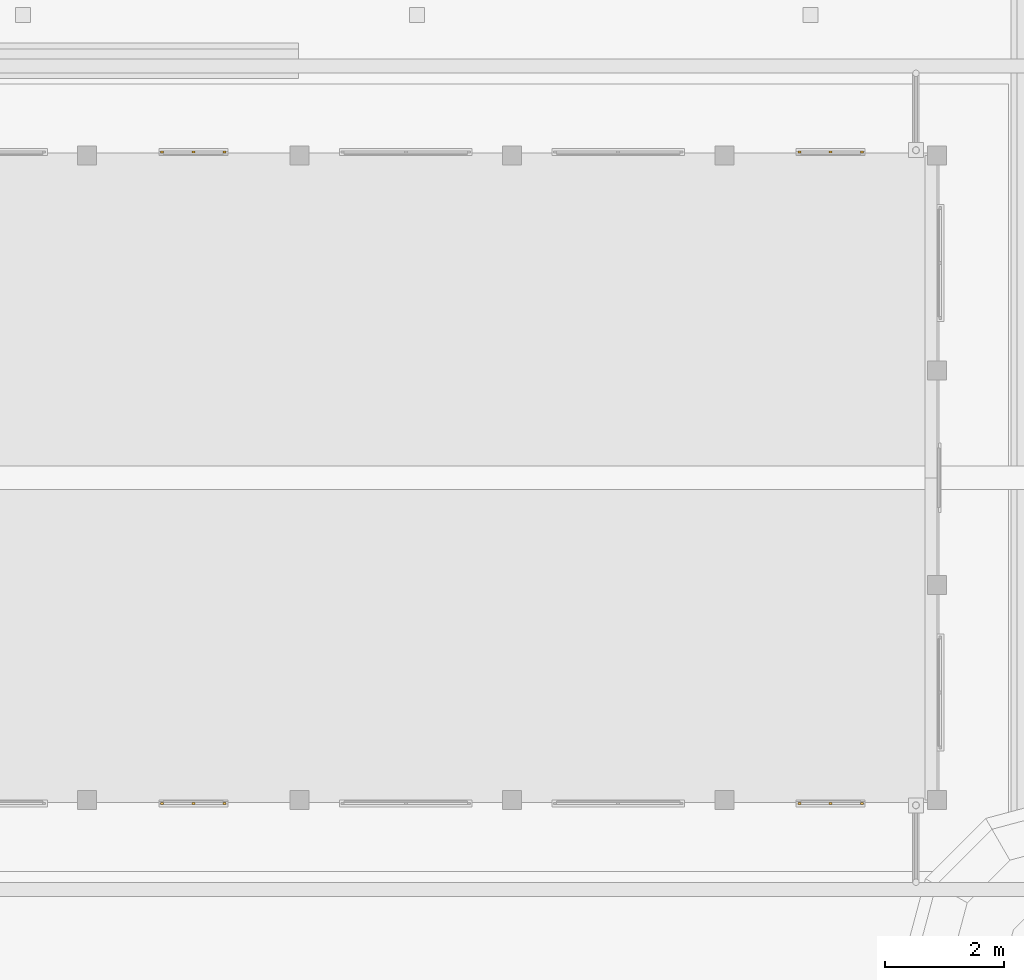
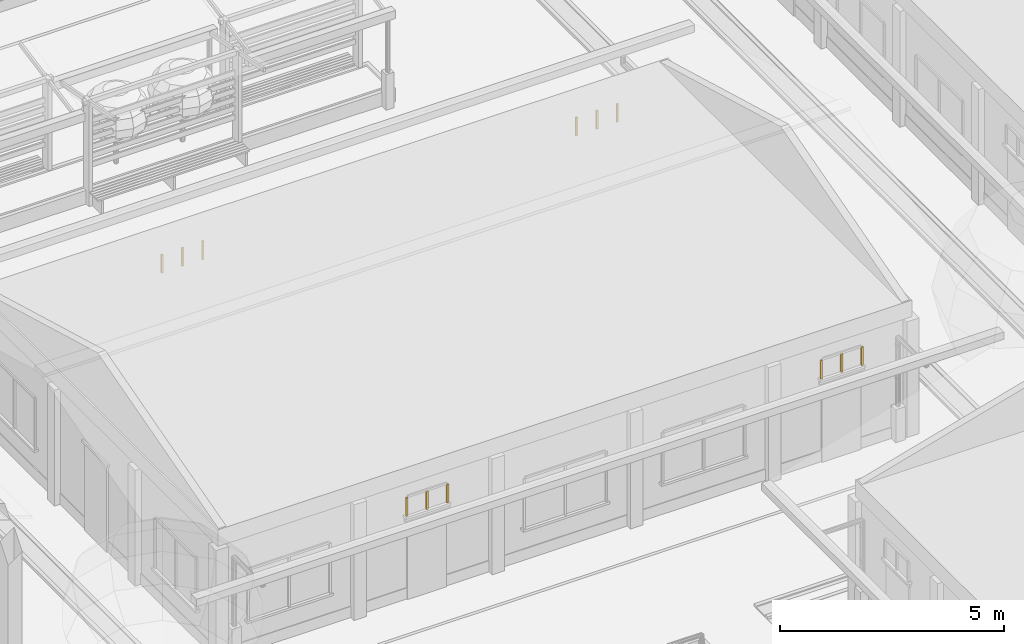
# One storey, part 87 of 177: 12 windows.
"""IFC4 building model written with IfcOpenShell, lengths in metres."""

from ifc_helpers import new_model, si_unit, origin, origin_with_axes, place, context, subcontext, project, spatial, triangles, element, save


model = new_model("IFC4")

# Units and contexts
model_context = context("Model", 3, precision=1e-05, world=origin_with_axes())
body_context = subcontext(model_context, "Body", "Model", "MODEL_VIEW")
ifc_project = project(units=[si_unit("LENGTHUNIT", "METRE"), si_unit("AREAUNIT", "SQUARE_METRE"), si_unit("VOLUMEUNIT", "CUBIC_METRE"), si_unit("PLANEANGLEUNIT", "RADIAN")], contexts=[model_context])

# Site, building, storey
site_placement = place(None, origin_with_axes())
site = spatial("IfcSite", under=ifc_project, at=site_placement, Name="Predio Los Mangos - Morales, San Martín", CompositionType="ELEMENT")
building_placement = place(site_placement, origin())
building = spatial("IfcBuilding", under=site, at=building_placement, Name="Hogar de Refugio Temporal", CompositionType="ELEMENT")
storey_placement = place(building_placement, origin())
storey = spatial("IfcBuildingStorey", under=building, at=storey_placement, Name="NIVEL 1 (NPT +0.00)", CompositionType="ELEMENT", Elevation=0.0)

# Windows
window_1_placement = place(storey_placement, origin())
element("IfcWindow", 1, at=window_1_placement, inside=storey, Name="E-06_vt1_m", ObjectType="Ventana", PredefinedType="WINDOW", context=body_context, shape_type="Tessellation", body=[
    triangles([(36.79, 92.62, 2.45), (36.84, 92.62, 2.45), (36.84, 92.66, 2.45), (36.79, 92.66, 2.45), (36.79, 92.62, 2.95), (36.84, 92.62, 2.95), (36.84, 92.66, 2.95), (36.79, 92.66, 2.95)], [[1, 4, 3], [1, 3, 2], [5, 6, 7], [5, 7, 8], [1, 2, 6], [1, 6, 5], [2, 3, 7], [2, 7, 6], [3, 4, 8], [3, 8, 7], [4, 1, 5], [4, 5, 8]]),
])
window_2_placement = place(storey_placement, origin())
element("IfcWindow", 2, at=window_2_placement, inside=storey, Name="E-06_vt1_m", ObjectType="Ventana", PredefinedType="WINDOW", context=body_context, shape_type="Tessellation", body=[
    triangles([(37.84, 92.62, 2.45), (37.89, 92.62, 2.45), (37.89, 92.66, 2.45), (37.84, 92.66, 2.45), (37.84, 92.62, 2.95), (37.89, 92.62, 2.95), (37.89, 92.66, 2.95), (37.84, 92.66, 2.95)], [[1, 4, 3], [1, 3, 2], [5, 6, 7], [5, 7, 8], [1, 2, 6], [1, 6, 5], [2, 3, 7], [2, 7, 6], [3, 4, 8], [3, 8, 7], [4, 1, 5], [4, 5, 8]]),
])
window_3_placement = place(storey_placement, origin())
element("IfcWindow", 3, at=window_3_placement, inside=storey, Name="E-06_vt1_m", ObjectType="Ventana", PredefinedType="WINDOW", context=body_context, shape_type="Tessellation", body=[
    triangles([(37.315, 92.62, 2.45), (37.365, 92.62, 2.45), (37.365, 92.66, 2.45), (37.315, 92.66, 2.45), (37.315, 92.62, 2.95), (37.365, 92.62, 2.95), (37.365, 92.66, 2.95), (37.315, 92.66, 2.95)], [[1, 4, 3], [1, 3, 2], [5, 6, 7], [5, 7, 8], [1, 2, 6], [1, 6, 5], [2, 3, 7], [2, 7, 6], [3, 4, 8], [3, 8, 7], [4, 1, 5], [4, 5, 8]]),
])
window_4_placement = place(storey_placement, origin())
element("IfcWindow", 4, at=window_4_placement, inside=storey, Name="E-06_vt4_m", ObjectType="Ventana", PredefinedType="WINDOW", context=body_context, shape_type="Tessellation", body=[
    triangles([(47.47, 92.62, 2.45), (47.52, 92.62, 2.45), (47.52, 92.66, 2.45), (47.47, 92.66, 2.45), (47.47, 92.62, 2.95), (47.52, 92.62, 2.95), (47.52, 92.66, 2.95), (47.47, 92.66, 2.95)], [[1, 4, 3], [1, 3, 2], [5, 6, 7], [5, 7, 8], [1, 2, 6], [1, 6, 5], [2, 3, 7], [2, 7, 6], [3, 4, 8], [3, 8, 7], [4, 1, 5], [4, 5, 8]]),
])
window_5_placement = place(storey_placement, origin())
element("IfcWindow", 5, at=window_5_placement, inside=storey, Name="E-06_vt4_m", ObjectType="Ventana", PredefinedType="WINDOW", context=body_context, shape_type="Tessellation", body=[
    triangles([(48.52, 92.62, 2.45), (48.57, 92.62, 2.45), (48.57, 92.66, 2.45), (48.52, 92.66, 2.45), (48.52, 92.62, 2.95), (48.57, 92.62, 2.95), (48.57, 92.66, 2.95), (48.52, 92.66, 2.95)], [[1, 4, 3], [1, 3, 2], [5, 6, 7], [5, 7, 8], [1, 2, 6], [1, 6, 5], [2, 3, 7], [2, 7, 6], [3, 4, 8], [3, 8, 7], [4, 1, 5], [4, 5, 8]]),
])
window_6_placement = place(storey_placement, origin())
element("IfcWindow", 6, at=window_6_placement, inside=storey, Name="E-06_vt4_m", ObjectType="Ventana", PredefinedType="WINDOW", context=body_context, shape_type="Tessellation", body=[
    triangles([(47.995, 92.62, 2.45), (48.045, 92.62, 2.45), (48.045, 92.66, 2.45), (47.995, 92.66, 2.45), (47.995, 92.62, 2.95), (48.045, 92.62, 2.95), (48.045, 92.66, 2.95), (47.995, 92.66, 2.95)], [[1, 4, 3], [1, 3, 2], [5, 6, 7], [5, 7, 8], [1, 2, 6], [1, 6, 5], [2, 3, 7], [2, 7, 6], [3, 4, 8], [3, 8, 7], [4, 1, 5], [4, 5, 8]]),
])
window_7_placement = place(storey_placement, origin())
element("IfcWindow", 7, at=window_7_placement, inside=storey, Name="E-06_vt1_m", ObjectType="Ventana", PredefinedType="WINDOW", context=body_context, shape_type="Tessellation", body=[
    triangles([(36.79, 103.54, 2.45), (36.84, 103.54, 2.45), (36.84, 103.58, 2.45), (36.79, 103.58, 2.45), (36.79, 103.54, 2.95), (36.84, 103.54, 2.95), (36.84, 103.58, 2.95), (36.79, 103.58, 2.95)], [[1, 4, 3], [1, 3, 2], [5, 6, 7], [5, 7, 8], [1, 2, 6], [1, 6, 5], [2, 3, 7], [2, 7, 6], [3, 4, 8], [3, 8, 7], [4, 1, 5], [4, 5, 8]]),
])
window_8_placement = place(storey_placement, origin())
element("IfcWindow", 8, at=window_8_placement, inside=storey, Name="E-06_vt1_m", ObjectType="Ventana", PredefinedType="WINDOW", context=body_context, shape_type="Tessellation", body=[
    triangles([(37.84, 103.54, 2.45), (37.89, 103.54, 2.45), (37.89, 103.58, 2.45), (37.84, 103.58, 2.45), (37.84, 103.54, 2.95), (37.89, 103.54, 2.95), (37.89, 103.58, 2.95), (37.84, 103.58, 2.95)], [[1, 4, 3], [1, 3, 2], [5, 6, 7], [5, 7, 8], [1, 2, 6], [1, 6, 5], [2, 3, 7], [2, 7, 6], [3, 4, 8], [3, 8, 7], [4, 1, 5], [4, 5, 8]]),
])
window_9_placement = place(storey_placement, origin())
element("IfcWindow", 9, at=window_9_placement, inside=storey, Name="E-06_vt1_m", ObjectType="Ventana", PredefinedType="WINDOW", context=body_context, shape_type="Tessellation", body=[
    triangles([(37.315, 103.54, 2.45), (37.365, 103.54, 2.45), (37.365, 103.58, 2.45), (37.315, 103.58, 2.45), (37.315, 103.54, 2.95), (37.365, 103.54, 2.95), (37.365, 103.58, 2.95), (37.315, 103.58, 2.95)], [[1, 4, 3], [1, 3, 2], [5, 6, 7], [5, 7, 8], [1, 2, 6], [1, 6, 5], [2, 3, 7], [2, 7, 6], [3, 4, 8], [3, 8, 7], [4, 1, 5], [4, 5, 8]]),
])
window_10_placement = place(storey_placement, origin())
element("IfcWindow", 10, at=window_10_placement, inside=storey, Name="E-06_vt4_m", ObjectType="Ventana", PredefinedType="WINDOW", context=body_context, shape_type="Tessellation", body=[
    triangles([(47.47, 103.54, 2.45), (47.52, 103.54, 2.45), (47.52, 103.58, 2.45), (47.47, 103.58, 2.45), (47.47, 103.54, 2.95), (47.52, 103.54, 2.95), (47.52, 103.58, 2.95), (47.47, 103.58, 2.95)], [[1, 4, 3], [1, 3, 2], [5, 6, 7], [5, 7, 8], [1, 2, 6], [1, 6, 5], [2, 3, 7], [2, 7, 6], [3, 4, 8], [3, 8, 7], [4, 1, 5], [4, 5, 8]]),
])
window_11_placement = place(storey_placement, origin())
element("IfcWindow", 11, at=window_11_placement, inside=storey, Name="E-06_vt4_m", ObjectType="Ventana", PredefinedType="WINDOW", context=body_context, shape_type="Tessellation", body=[
    triangles([(48.52, 103.54, 2.45), (48.57, 103.54, 2.45), (48.57, 103.58, 2.45), (48.52, 103.58, 2.45), (48.52, 103.54, 2.95), (48.57, 103.54, 2.95), (48.57, 103.58, 2.95), (48.52, 103.58, 2.95)], [[1, 4, 3], [1, 3, 2], [5, 6, 7], [5, 7, 8], [1, 2, 6], [1, 6, 5], [2, 3, 7], [2, 7, 6], [3, 4, 8], [3, 8, 7], [4, 1, 5], [4, 5, 8]]),
])
window_12_placement = place(storey_placement, origin())
element("IfcWindow", 12, at=window_12_placement, inside=storey, Name="E-06_vt4_m", ObjectType="Ventana", PredefinedType="WINDOW", context=body_context, shape_type="Tessellation", body=[
    triangles([(47.995, 103.54, 2.45), (48.045, 103.54, 2.45), (48.045, 103.58, 2.45), (47.995, 103.58, 2.45), (47.995, 103.54, 2.95), (48.045, 103.54, 2.95), (48.045, 103.58, 2.95), (47.995, 103.58, 2.95)], [[1, 4, 3], [1, 3, 2], [5, 6, 7], [5, 7, 8], [1, 2, 6], [1, 6, 5], [2, 3, 7], [2, 7, 6], [3, 4, 8], [3, 8, 7], [4, 1, 5], [4, 5, 8]]),
])

save(model, "model.ifc")
